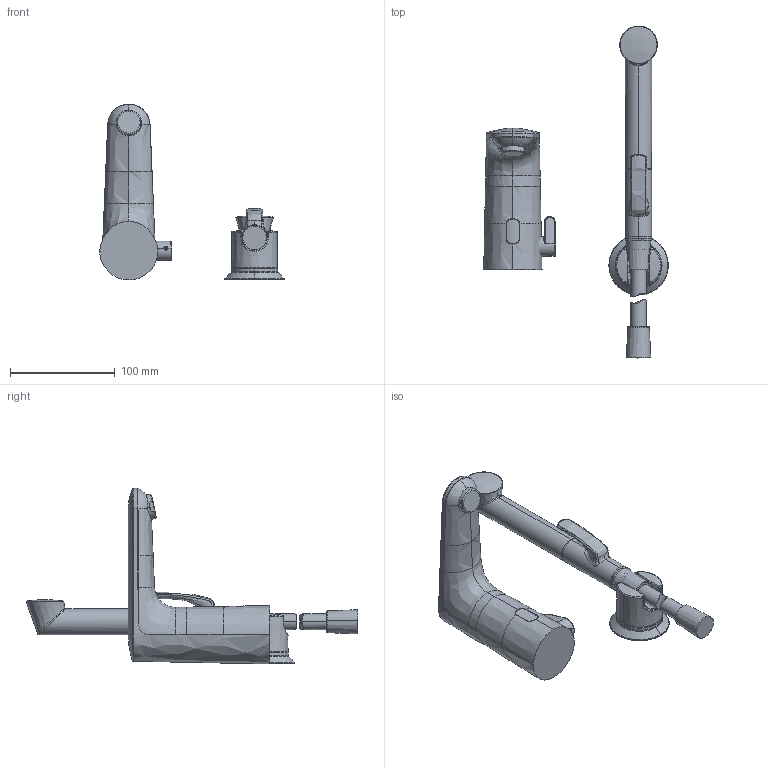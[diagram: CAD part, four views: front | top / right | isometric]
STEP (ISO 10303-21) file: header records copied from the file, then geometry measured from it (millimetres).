
FILE_DESCRIPTION (( 'STEP AP203' ), '1' );
FILE_NAME ('9262FZ(2023)+9282BFZ(2023).STEP', '2023-04-28T10:01:52', ( '' ), ( '' ), 'SwSTEP 2.0', 'SolidWorks 2016', '' );
FILE_SCHEMA (( 'CONFIG_CONTROL_DESIGN' ));
Products named in the file (1): 9262FZ(2023)+9282BFZ(2023)
Bounding box: 176.11 x 316.75 x 167.92 mm (x, y, z)
Volume: 608365.2 mm3; surface area: 89125.2 mm2
Topology: 11 solids, 11 shells, 606 faces, 1435 edges, 838 vertices
Faces by surface type: bspline 349, cylinder 115, plane 79, cone 43, torus 20
Entity records: 61295 total; most frequent: CARTESIAN_POINT 50318, ORIENTED_EDGE 2834, DIRECTION 1442, EDGE_CURVE 1417, VERTEX_POINT 838, B_SPLINE_CURVE_WITH_KNOTS 778, EDGE_LOOP 613, FACE_OUTER_BOUND 606
